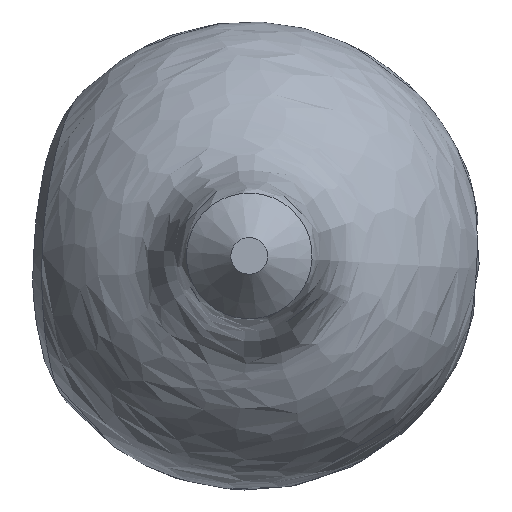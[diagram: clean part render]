
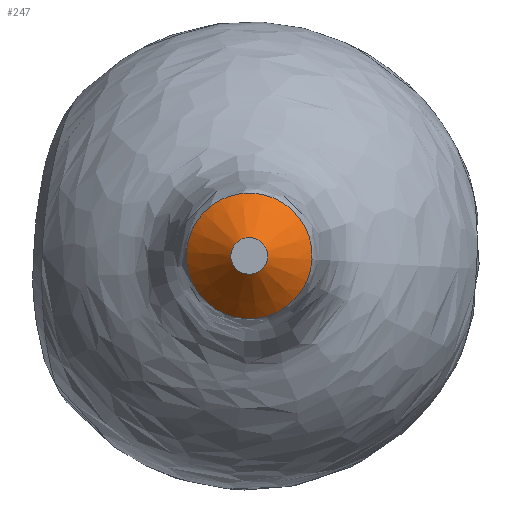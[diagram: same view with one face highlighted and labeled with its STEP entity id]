
A CAD part, front view. The second image highlights one B-rep face of the part: STEP entity #247.
In plain terms, the highlighted conical face has half-angle 42.274 degrees and reference radius 5.768 mm.
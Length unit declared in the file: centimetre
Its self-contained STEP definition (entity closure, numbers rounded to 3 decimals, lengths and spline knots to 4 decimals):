
#22=CONICAL_SURFACE('',#268,0.5768,42.274);
#28=FACE_BOUND('',#76,.T.);
#56=FACE_OUTER_BOUND('',#75,.T.);
#75=EDGE_LOOP('',(#171));
#76=EDGE_LOOP('',(#172));
#96=CIRCLE('',#267,0.3946);
#97=CIRCLE('',#269,1.35);
#113=VERTEX_POINT('',#652);
#114=VERTEX_POINT('',#655);
#137=EDGE_CURVE('',#113,#113,#96,.T.);
#138=EDGE_CURVE('',#114,#114,#97,.T.);
#171=ORIENTED_EDGE('',*,*,#138,.T.);
#172=ORIENTED_EDGE('',*,*,#137,.F.);
#247=ADVANCED_FACE('',(#56,#28),#22,.T.);
#267=AXIS2_PLACEMENT_3D('',#653,#294,#295);
#268=AXIS2_PLACEMENT_3D('',#654,#296,#297);
#269=AXIS2_PLACEMENT_3D('',#656,#298,#299);
#294=DIRECTION('center_axis',(0.,-1.,0.));
#295=DIRECTION('ref_axis',(0.998,0.,-0.057));
#296=DIRECTION('center_axis',(0.,1.,0.));
#297=DIRECTION('ref_axis',(0.998,0.,-0.057));
#298=DIRECTION('center_axis',(0.,-1.,0.));
#299=DIRECTION('ref_axis',(0.998,0.,-0.057));
#652=CARTESIAN_POINT('',(0.3304,-0.501,-0.2314));
#653=CARTESIAN_POINT('Origin',(-0.0635,-0.501,-0.2091));
#654=CARTESIAN_POINT('Origin',(-0.0635,-0.3005,-0.2091));
#655=CARTESIAN_POINT('',(1.2843,0.55,-0.2856));
#656=CARTESIAN_POINT('Origin',(-0.0635,0.55,-0.2091));
